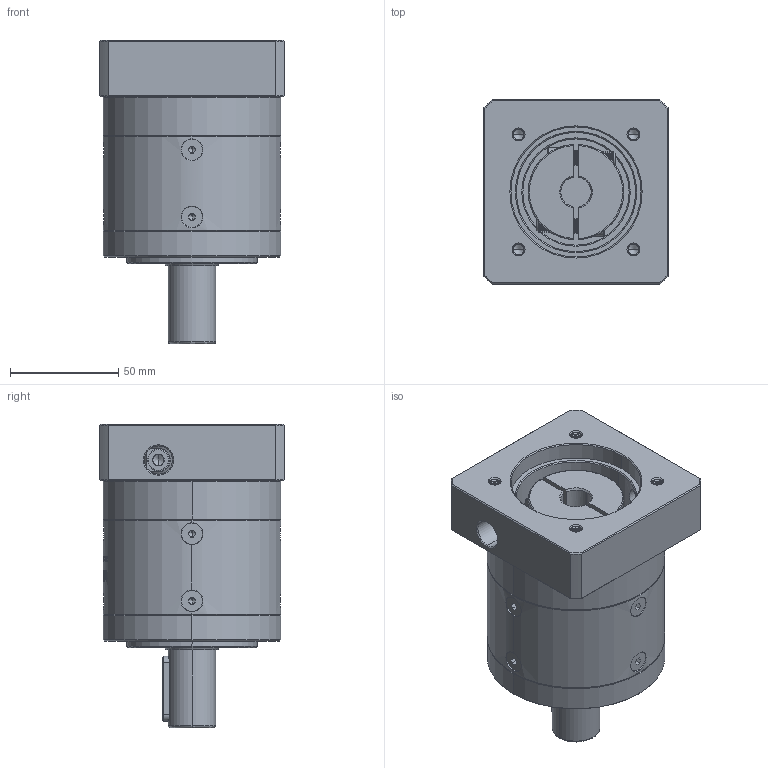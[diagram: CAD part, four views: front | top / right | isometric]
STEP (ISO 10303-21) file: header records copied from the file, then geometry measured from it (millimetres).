
FILE_DESCRIPTION (( 'STEP AP214' ), '1' );
FILE_NAME ('ZE80-D22-L1-14-60-75-M6.step', '2022-05-08T05:53:10', ( '' ), ( 'Microsoft' ), 'SwSTEP 2.0', 'SolidWorks 2016', '' );
FILE_SCHEMA (( 'AUTOMOTIVE_DESIGN' ));
Length unit declared in the file: millimetre
Products named in the file (1): ZE80-D22-L1-14-60-75-M6
Bounding box: 85 x 85 x 140 mm (x, y, z)
Volume: 531971.9 mm3; surface area: 85416.5 mm2
Topology: 13 solids, 13 shells, 2076 faces, 5401 edges, 3414 vertices
Faces by surface type: plane 891, cylinder 504, cone 332, bspline 332, torus 17
Entity records: 118875 total; most frequent: CARTESIAN_POINT 49527, ORIENTED_EDGE 10726, DIRECTION 8264, EDGE_CURVE 5363, VERTEX_POINT 3414, VECTOR 2864, LINE 2864, AXIS2_PLACEMENT_3D 2700
